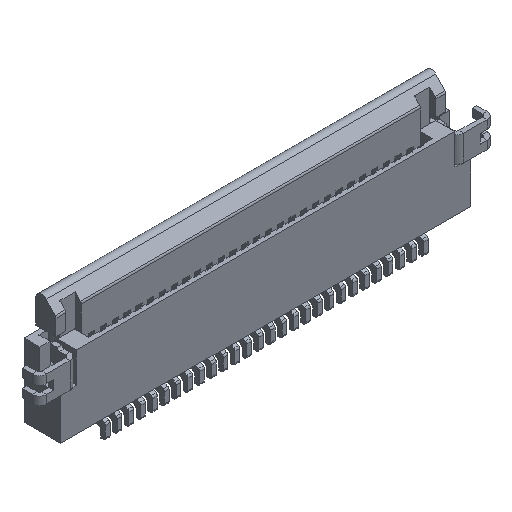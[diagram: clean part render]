
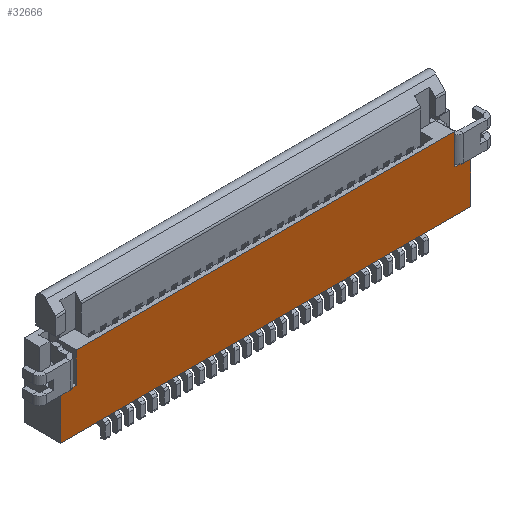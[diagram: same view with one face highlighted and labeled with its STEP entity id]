
A CAD part, isometric view. The second image highlights one B-rep face of the part: STEP entity #32666.
In plain terms, the highlighted planar face has unit normal (0, -1, 0).
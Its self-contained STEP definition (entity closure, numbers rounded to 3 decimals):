
#13=DIRECTION('',(-1.,0.,0.));
#14=VECTOR('',#13,0.35);
#15=CARTESIAN_POINT('',(0.,-1.55,-1.3));
#16=LINE('',#15,#14);
#17=DIRECTION('',(0.,0.,-1.));
#18=VECTOR('',#17,1.8);
#19=CARTESIAN_POINT('',(0.,-1.55,-1.3));
#20=LINE('',#19,#18);
#21=DIRECTION('',(-1.,0.,0.));
#22=VECTOR('',#21,17.4);
#23=CARTESIAN_POINT('',(0.,-1.55,-3.1));
#24=LINE('',#23,#22);
#25=DIRECTION('',(0.,0.,1.));
#26=VECTOR('',#25,1.8);
#27=CARTESIAN_POINT('',(-17.4,-1.55,-3.1));
#28=LINE('',#27,#26);
#29=DIRECTION('',(1.,0.,0.));
#30=VECTOR('',#29,0.35);
#31=CARTESIAN_POINT('',(-17.4,-1.55,-1.3));
#32=LINE('',#31,#30);
#33=DIRECTION('',(1.,0.,0.));
#34=VECTOR('',#33,0.166);
#35=CARTESIAN_POINT('',(-17.05,-1.55,-1.3));
#36=LINE('',#35,#34);
#37=DIRECTION('',(1.,0.,0.));
#38=VECTOR('',#37,0.154);
#39=CARTESIAN_POINT('',(-16.884,-1.55,-1.3));
#40=LINE('',#39,#38);
#41=DIRECTION('',(0.,0.,1.));
#42=VECTOR('',#41,1.3);
#43=CARTESIAN_POINT('',(-16.73,-1.55,-1.3));
#44=LINE('',#43,#42);
#45=DIRECTION('',(1.,0.,0.));
#46=VECTOR('',#45,16.06);
#47=CARTESIAN_POINT('',(-16.73,-1.55,0.));
#48=LINE('',#47,#46);
#49=DIRECTION('',(0.,0.,-1.));
#50=VECTOR('',#49,1.3);
#51=CARTESIAN_POINT('',(-0.67,-1.55,0.));
#52=LINE('',#51,#50);
#53=DIRECTION('',(1.,0.,0.));
#54=VECTOR('',#53,0.154);
#55=CARTESIAN_POINT('',(-0.67,-1.55,-1.3));
#56=LINE('',#55,#54);
#57=DIRECTION('',(-1.,0.,0.));
#58=VECTOR('',#57,0.166);
#59=CARTESIAN_POINT('',(-0.35,-1.55,-1.3));
#60=LINE('',#59,#58);
#24906=CARTESIAN_POINT('',(0.,-1.55,-3.1));
#24907=VERTEX_POINT('',#24906);
#24913=CARTESIAN_POINT('',(-0.67,-1.55,-1.3));
#24915=VERTEX_POINT('',#24913);
#24920=CARTESIAN_POINT('',(-16.73,-1.55,-1.3));
#24922=VERTEX_POINT('',#24920);
#24956=CARTESIAN_POINT('',(-0.67,-1.55,0.));
#24957=VERTEX_POINT('',#24956);
#24976=CARTESIAN_POINT('',(-16.73,-1.55,0.));
#24977=VERTEX_POINT('',#24976);
#25968=CARTESIAN_POINT('',(-17.4,-1.55,-3.1));
#25969=VERTEX_POINT('',#25968);
#32541=CARTESIAN_POINT('',(-16.884,-1.55,-1.3));
#32543=VERTEX_POINT('',#32541);
#32562=CARTESIAN_POINT('',(-17.4,-1.55,-1.3));
#32563=VERTEX_POINT('',#32562);
#32564=CARTESIAN_POINT('',(-17.05,-1.55,-1.3));
#32565=VERTEX_POINT('',#32564);
#32566=CARTESIAN_POINT('',(0.,-1.55,-1.3));
#32568=VERTEX_POINT('',#32566);
#32575=CARTESIAN_POINT('',(-0.516,-1.55,-1.3));
#32577=VERTEX_POINT('',#32575);
#32594=CARTESIAN_POINT('',(-0.35,-1.55,-1.3));
#32595=VERTEX_POINT('',#32594);
#32637=CARTESIAN_POINT('',(-8.7,-1.55,-1.55));
#32638=DIRECTION('',(0.,1.,0.));
#32639=DIRECTION('',(0.,0.,1.));
#32640=AXIS2_PLACEMENT_3D('',#32637,#32638,#32639);
#32641=PLANE('',#32640);
#32642=ORIENTED_EDGE('',*,*,#32624,.F.);
#32643=ORIENTED_EDGE('',*,*,#32613,.T.);
#32645=ORIENTED_EDGE('',*,*,#32644,.T.);
#32647=ORIENTED_EDGE('',*,*,#32646,.T.);
#32649=ORIENTED_EDGE('',*,*,#32648,.T.);
#32651=ORIENTED_EDGE('',*,*,#32650,.T.);
#32653=ORIENTED_EDGE('',*,*,#32652,.T.);
#32655=ORIENTED_EDGE('',*,*,#32654,.T.);
#32657=ORIENTED_EDGE('',*,*,#32656,.T.);
#32659=ORIENTED_EDGE('',*,*,#32658,.T.);
#32661=ORIENTED_EDGE('',*,*,#32660,.T.);
#32663=ORIENTED_EDGE('',*,*,#32662,.F.);
#32664=EDGE_LOOP('',(#32642,#32643,#32645,#32647,#32649,#32651,#32653,#32655,
#32657,#32659,#32661,#32663));
#32665=FACE_OUTER_BOUND('',#32664,.F.);
#32666=ADVANCED_FACE('',(#32665),#32641,.F.);
#32613=EDGE_CURVE('',#32568,#24907,#20,.T.);
#32624=EDGE_CURVE('',#32568,#32595,#16,.T.);
#32644=EDGE_CURVE('',#24907,#25969,#24,.T.);
#32646=EDGE_CURVE('',#25969,#32563,#28,.T.);
#32648=EDGE_CURVE('',#32563,#32565,#32,.T.);
#32650=EDGE_CURVE('',#32565,#32543,#36,.T.);
#32652=EDGE_CURVE('',#32543,#24922,#40,.T.);
#32654=EDGE_CURVE('',#24922,#24977,#44,.T.);
#32656=EDGE_CURVE('',#24977,#24957,#48,.T.);
#32658=EDGE_CURVE('',#24957,#24915,#52,.T.);
#32660=EDGE_CURVE('',#24915,#32577,#56,.T.);
#32662=EDGE_CURVE('',#32595,#32577,#60,.T.);
